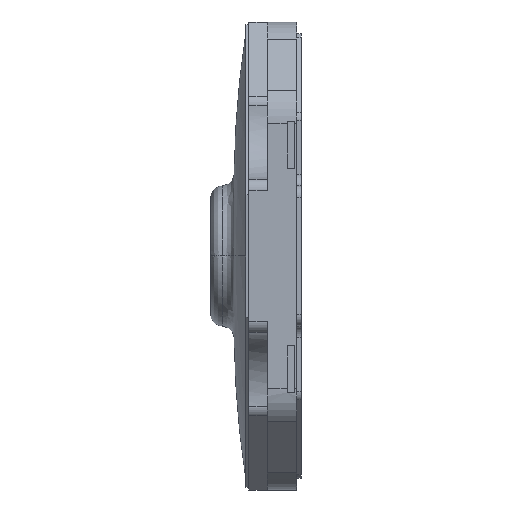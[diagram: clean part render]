
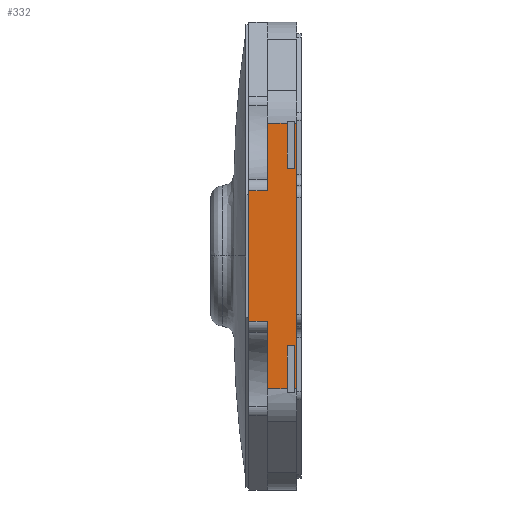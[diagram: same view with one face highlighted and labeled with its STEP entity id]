
A CAD part, left-side view. The second image highlights one B-rep face of the part: STEP entity #332.
In plain terms, the highlighted planar face has unit normal (-1, 0, 0).
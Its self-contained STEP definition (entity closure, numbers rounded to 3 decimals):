
#99 = LINE ( 'NONE', #6875, #4771 ) ;
#208 = EDGE_CURVE ( 'NONE', #5410, #7008, #6613, .T. ) ;
#229 = DIRECTION ( 'NONE',  ( 0., 1., 0. ) ) ;
#277 = ORIENTED_EDGE ( 'NONE', *, *, #7881, .F. ) ;
#289 = EDGE_CURVE ( 'NONE', #8095, #4916, #2153, .T. ) ;
#332 = ADVANCED_FACE ( 'NONE', ( #8058 ), #5511, .F. ) ;
#412 = VECTOR ( 'NONE', #4222, 1000. ) ;
#479 = EDGE_CURVE ( 'NONE', #4916, #4668, #5673, .T. ) ;
#490 = VERTEX_POINT ( 'NONE', #4323 ) ;
#533 = ORIENTED_EDGE ( 'NONE', *, *, #7449, .T. ) ;
#637 = CARTESIAN_POINT ( 'NONE',  ( -2.95, 0.29, -1.134 ) ) ;
#800 = VECTOR ( 'NONE', #2074, 1000. ) ;
#847 = VECTOR ( 'NONE', #8284, 1000. ) ;
#905 = CARTESIAN_POINT ( 'NONE',  ( -2.95, 0.12, -0.768 ) ) ;
#940 = VECTOR ( 'NONE', #2590, 1000. ) ;
#948 = VERTEX_POINT ( 'NONE', #2385 ) ;
#960 = CARTESIAN_POINT ( 'NONE',  ( -2.95, 0.29, -0.557 ) ) ;
#1168 = LINE ( 'NONE', #5100, #6869 ) ;
#1199 = EDGE_CURVE ( 'NONE', #490, #5410, #5572, .T. ) ;
#1232 = LINE ( 'NONE', #3893, #4925 ) ;
#1380 = ORIENTED_EDGE ( 'NONE', *, *, #208, .F. ) ;
#1405 = VECTOR ( 'NONE', #8016, 1000. ) ;
#1499 = CARTESIAN_POINT ( 'NONE',  ( -2.95, 0.45, -1.134 ) ) ;
#1543 = VECTOR ( 'NONE', #2423, 1000. ) ;
#1561 = VERTEX_POINT ( 'NONE', #6001 ) ;
#1573 = ORIENTED_EDGE ( 'NONE', *, *, #5213, .F. ) ;
#1633 = VECTOR ( 'NONE', #3371, 1000. ) ;
#1723 = VECTOR ( 'NONE', #6264, 1000. ) ;
#1847 = EDGE_CURVE ( 'NONE', #5117, #6738, #5387, .T. ) ;
#2021 = DIRECTION ( 'NONE',  ( 0., 0., -1. ) ) ;
#2074 = DIRECTION ( 'NONE',  ( 0., -1., 0. ) ) ;
#2126 = CARTESIAN_POINT ( 'NONE',  ( -2.95, 0.45, 1.134 ) ) ;
#2153 = LINE ( 'NONE', #8141, #1405 ) ;
#2160 = CARTESIAN_POINT ( 'NONE',  ( -2.95, 0.29, 1.134 ) ) ;
#2202 = LINE ( 'NONE', #1499, #3671 ) ;
#2244 = LINE ( 'NONE', #2160, #1633 ) ;
#2273 = CARTESIAN_POINT ( 'NONE',  ( -2.95, 0.12, -1.134 ) ) ;
#2276 = CARTESIAN_POINT ( 'NONE',  ( -2.95, 0.06, 1.134 ) ) ;
#2317 = CARTESIAN_POINT ( 'NONE',  ( -2.95, 0.45, 0.75 ) ) ;
#2385 = CARTESIAN_POINT ( 'NONE',  ( -2.95, 0.06, -0.768 ) ) ;
#2423 = DIRECTION ( 'NONE',  ( 0., -1., 0. ) ) ;
#2522 = ORIENTED_EDGE ( 'NONE', *, *, #4782, .F. ) ;
#2590 = DIRECTION ( 'NONE',  ( 0., 1., 0. ) ) ;
#2604 = VERTEX_POINT ( 'NONE', #637 ) ;
#2695 = EDGE_CURVE ( 'NONE', #8063, #6385, #8168, .T. ) ;
#2765 = AXIS2_PLACEMENT_3D ( 'NONE', #4646, #5428, #3321 ) ;
#2849 = DIRECTION ( 'NONE',  ( 0., 0., 1. ) ) ;
#2990 = ORIENTED_EDGE ( 'NONE', *, *, #6169, .F. ) ;
#3094 = CARTESIAN_POINT ( 'NONE',  ( -2.95, 0.29, 0.557 ) ) ;
#3210 = CARTESIAN_POINT ( 'NONE',  ( -2.95, 0.45, 1.134 ) ) ;
#3279 = CARTESIAN_POINT ( 'NONE',  ( -2.95, 0.45, -1.134 ) ) ;
#3281 = VERTEX_POINT ( 'NONE', #3094 ) ;
#3321 = DIRECTION ( 'NONE',  ( 0., 0., -1. ) ) ;
#3371 = DIRECTION ( 'NONE',  ( 0., 0., 1. ) ) ;
#3514 = CARTESIAN_POINT ( 'NONE',  ( -2.95, 0.04, 1.134 ) ) ;
#3536 = VECTOR ( 'NONE', #7162, 1000. ) ;
#3541 = CARTESIAN_POINT ( 'NONE',  ( -2.95, 0.12, 0.75 ) ) ;
#3568 = ORIENTED_EDGE ( 'NONE', *, *, #7460, .F. ) ;
#3631 = VERTEX_POINT ( 'NONE', #7249 ) ;
#3671 = VECTOR ( 'NONE', #229, 1000. ) ;
#3893 = CARTESIAN_POINT ( 'NONE',  ( -2.95, 0.12, 1.134 ) ) ;
#4090 = CARTESIAN_POINT ( 'NONE',  ( -2.95, 0.12, 1.134 ) ) ;
#4102 = CARTESIAN_POINT ( 'NONE',  ( -2.95, 0.06, 0.75 ) ) ;
#4125 = EDGE_LOOP ( 'NONE', ( #7634, #5967, #533, #1380, #4992, #7251, #7473, #8512, #277, #1573, #2990, #2522, #8570, #5333, #8366, #3568 ) ) ;
#4222 = DIRECTION ( 'NONE',  ( 0., 1., 0. ) ) ;
#4323 = CARTESIAN_POINT ( 'NONE',  ( -2.95, 0.04, 1.134 ) ) ;
#4646 = CARTESIAN_POINT ( 'NONE',  ( -2.95, 0.45, 1.134 ) ) ;
#4668 = VERTEX_POINT ( 'NONE', #3541 ) ;
#4674 = EDGE_CURVE ( 'NONE', #6385, #3631, #99, .T. ) ;
#4771 = VECTOR ( 'NONE', #2849, 1000. ) ;
#4782 = EDGE_CURVE ( 'NONE', #3631, #3281, #1168, .T. ) ;
#4802 = CARTESIAN_POINT ( 'NONE',  ( -2.95, 0.06, -1.134 ) ) ;
#4821 = CARTESIAN_POINT ( 'NONE',  ( -2.95, 0.06, 1.134 ) ) ;
#4851 = VECTOR ( 'NONE', #7461, 1000. ) ;
#4916 = VERTEX_POINT ( 'NONE', #4102 ) ;
#4925 = VECTOR ( 'NONE', #2021, 1000. ) ;
#4992 = ORIENTED_EDGE ( 'NONE', *, *, #1199, .F. ) ;
#5100 = CARTESIAN_POINT ( 'NONE',  ( -2.95, 0.29, 0.557 ) ) ;
#5117 = VERTEX_POINT ( 'NONE', #905 ) ;
#5213 = EDGE_CURVE ( 'NONE', #1561, #5790, #6582, .T. ) ;
#5333 = ORIENTED_EDGE ( 'NONE', *, *, #2695, .F. ) ;
#5387 = LINE ( 'NONE', #8059, #7911 ) ;
#5410 = VERTEX_POINT ( 'NONE', #6525 ) ;
#5428 = DIRECTION ( 'NONE',  ( 1., 0., 0. ) ) ;
#5429 = DIRECTION ( 'NONE',  ( 0., 0., -1. ) ) ;
#5441 = LINE ( 'NONE', #2126, #4851 ) ;
#5511 = PLANE ( 'NONE',  #2765 ) ;
#5572 = LINE ( 'NONE', #3514, #847 ) ;
#5673 = LINE ( 'NONE', #2317, #5972 ) ;
#5790 = VERTEX_POINT ( 'NONE', #4090 ) ;
#5847 = EDGE_CURVE ( 'NONE', #8095, #490, #5441, .T. ) ;
#5967 = ORIENTED_EDGE ( 'NONE', *, *, #6185, .T. ) ;
#5972 = VECTOR ( 'NONE', #6370, 1000. ) ;
#6001 = CARTESIAN_POINT ( 'NONE',  ( -2.95, 0.29, 1.134 ) ) ;
#6131 = LINE ( 'NONE', #4821, #1723 ) ;
#6169 = EDGE_CURVE ( 'NONE', #3281, #1561, #2244, .T. ) ;
#6174 = LINE ( 'NONE', #7450, #800 ) ;
#6185 = EDGE_CURVE ( 'NONE', #5117, #948, #6174, .T. ) ;
#6264 = DIRECTION ( 'NONE',  ( 0., 0., -1. ) ) ;
#6370 = DIRECTION ( 'NONE',  ( 0., 1., 0. ) ) ;
#6385 = VERTEX_POINT ( 'NONE', #7657 ) ;
#6407 = DIRECTION ( 'NONE',  ( 0., -1., 0. ) ) ;
#6525 = CARTESIAN_POINT ( 'NONE',  ( -2.95, 0.04, -1.134 ) ) ;
#6582 = LINE ( 'NONE', #3210, #1543 ) ;
#6613 = LINE ( 'NONE', #3279, #940 ) ;
#6738 = VERTEX_POINT ( 'NONE', #2273 ) ;
#6869 = VECTOR ( 'NONE', #6407, 1000. ) ;
#6875 = CARTESIAN_POINT ( 'NONE',  ( -2.95, 0.45, -1.5 ) ) ;
#6963 = EDGE_CURVE ( 'NONE', #2604, #8063, #7294, .T. ) ;
#6970 = CARTESIAN_POINT ( 'NONE',  ( -2.95, 0.45, -0.557 ) ) ;
#7008 = VERTEX_POINT ( 'NONE', #4802 ) ;
#7162 = DIRECTION ( 'NONE',  ( 0., 0., 1. ) ) ;
#7249 = CARTESIAN_POINT ( 'NONE',  ( -2.95, 0.45, 0.557 ) ) ;
#7251 = ORIENTED_EDGE ( 'NONE', *, *, #5847, .F. ) ;
#7294 = LINE ( 'NONE', #8559, #3536 ) ;
#7449 = EDGE_CURVE ( 'NONE', #948, #7008, #6131, .T. ) ;
#7450 = CARTESIAN_POINT ( 'NONE',  ( -2.95, 0.45, -0.768 ) ) ;
#7460 = EDGE_CURVE ( 'NONE', #6738, #2604, #2202, .T. ) ;
#7461 = DIRECTION ( 'NONE',  ( 0., -1., 0. ) ) ;
#7473 = ORIENTED_EDGE ( 'NONE', *, *, #289, .T. ) ;
#7634 = ORIENTED_EDGE ( 'NONE', *, *, #1847, .F. ) ;
#7657 = CARTESIAN_POINT ( 'NONE',  ( -2.95, 0.45, -0.557 ) ) ;
#7881 = EDGE_CURVE ( 'NONE', #5790, #4668, #1232, .T. ) ;
#7911 = VECTOR ( 'NONE', #5429, 1000. ) ;
#8016 = DIRECTION ( 'NONE',  ( 0., 0., -1. ) ) ;
#8058 = FACE_OUTER_BOUND ( 'NONE', #4125, .T. ) ;
#8059 = CARTESIAN_POINT ( 'NONE',  ( -2.95, 0.12, 1.134 ) ) ;
#8063 = VERTEX_POINT ( 'NONE', #960 ) ;
#8095 = VERTEX_POINT ( 'NONE', #2276 ) ;
#8141 = CARTESIAN_POINT ( 'NONE',  ( -2.95, 0.06, 1.134 ) ) ;
#8168 = LINE ( 'NONE', #6970, #412 ) ;
#8284 = DIRECTION ( 'NONE',  ( 0., 0., -1. ) ) ;
#8366 = ORIENTED_EDGE ( 'NONE', *, *, #6963, .F. ) ;
#8512 = ORIENTED_EDGE ( 'NONE', *, *, #479, .T. ) ;
#8559 = CARTESIAN_POINT ( 'NONE',  ( -2.95, 0.29, 1.134 ) ) ;
#8570 = ORIENTED_EDGE ( 'NONE', *, *, #4674, .F. ) ;
